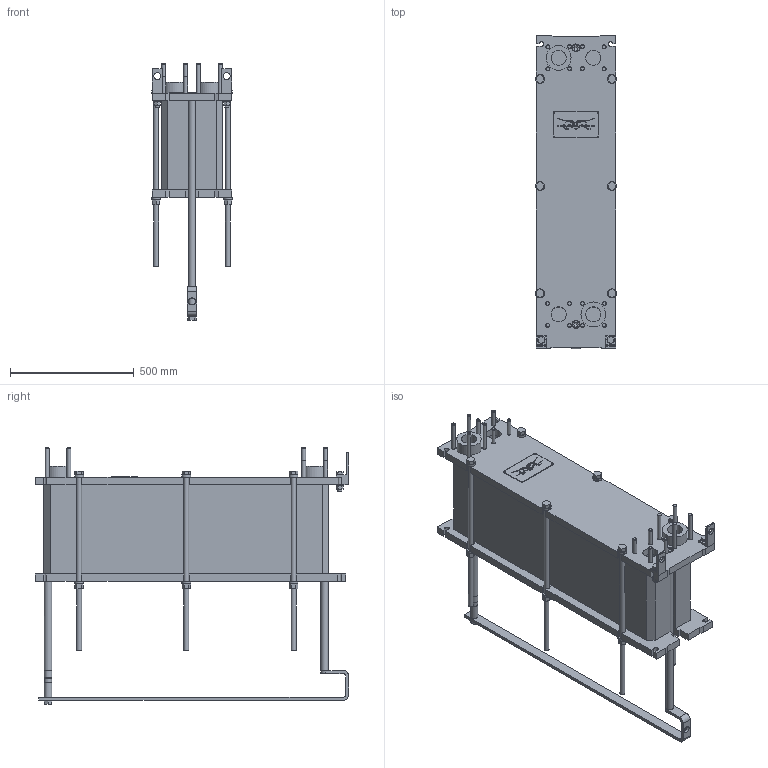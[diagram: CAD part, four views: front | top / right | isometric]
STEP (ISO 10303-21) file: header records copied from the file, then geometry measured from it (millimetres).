
FILE_DESCRIPTION(/* description */ (''),/* implementation_level */ '2;1');
FILE_NAME(/* name */ 'C:\temp\TL6_FG_LC750_08_Rev0.stp',/* time_stamp */ '2016-02-02T13:36:38+08:00',/* author */ ('SELUJJNCX'),/* organization */ (''),/* preprocessor_version */ 'ST-DEVELOPER v15.6',/* originating_system */ 'Autodesk Inventor 2015',/* authorisation */ '270013742 mm^3');
FILE_SCHEMA (('AUTOMOTIVE_DESIGN { 1 0 10303 214 3 1 1 }'));
Length unit declared in the file: millimetre
Products named in the file (1): 3dmodel_TL6.3
Bounding box: 326 x 1264 x 1034.5 mm (x, y, z)
Volume: 125782306.3 mm3; surface area: 3278575.3 mm2
Topology: 1 solids, 3 shells, 857 faces, 2274 edges, 1495 vertices
Faces by surface type: plane 589, cylinder 236, cone 27, torus 5
Full cylindrical faces by diameter (mm): 4.049 x4, 16 x20, 18 x2, 20 x12, 22 x2, 28 x4, 30 x10, 32 x2, 36 x12, 37 x1, 61 x10, 100 x2
Entity records: 25804 total; most frequent: CARTESIAN_POINT 4474, DIRECTION 4355, ORIENTED_EDGE 4258, EDGE_CURVE 2129, LINE 1595, VECTOR 1595, VERTEX_POINT 1463, AXIS2_PLACEMENT_3D 1380
